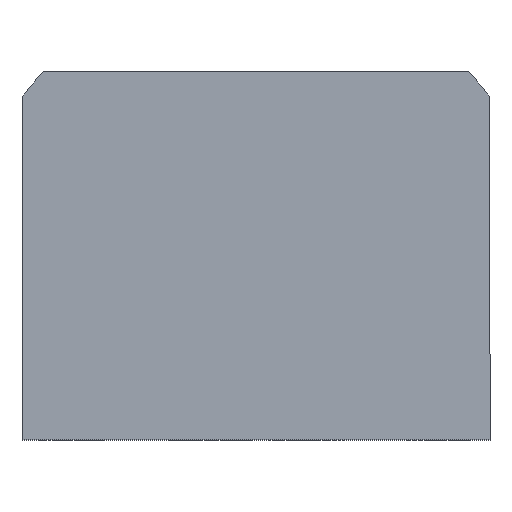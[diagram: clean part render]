
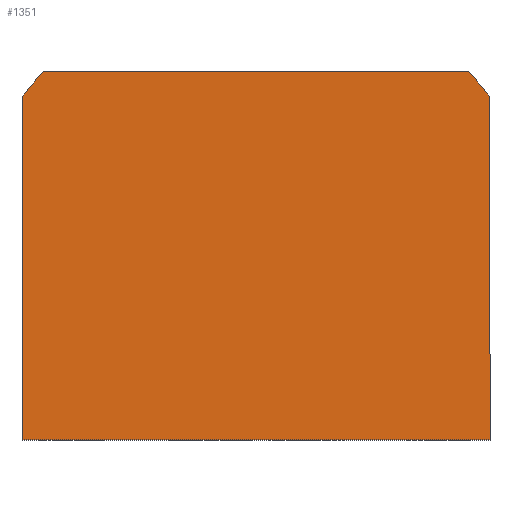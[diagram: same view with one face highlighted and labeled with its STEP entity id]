
A CAD part, top view. The second image highlights one B-rep face of the part: STEP entity #1351.
In plain terms, the highlighted planar face has unit normal (0, 0, 1).
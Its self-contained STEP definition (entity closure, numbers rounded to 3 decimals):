
#24 = DIRECTION ( 'NONE',  ( 0., 0., 1. ) ) ;
#295 = FACE_OUTER_BOUND ( 'NONE', #882, .T. ) ;
#347 = CARTESIAN_POINT ( 'NONE',  ( 47., 34.832, 32.5 ) ) ;
#648 = ORIENTED_EDGE ( 'NONE', *, *, #5767, .T. ) ;
#779 = CIRCLE ( 'NONE', #7269, 58.5 ) ;
#882 = EDGE_LOOP ( 'NONE', ( #4152, #10022, #8874, #648, #8433, #6510 ) ) ;
#1069 = EDGE_CURVE ( 'NONE', #2316, #7475, #6969, .T. ) ;
#1173 = CARTESIAN_POINT ( 'NONE',  ( 0., 0., 32.5 ) ) ;
#1185 = LINE ( 'NONE', #8592, #8664 ) ;
#1351 = ADVANCED_FACE ( 'NONE', ( #295 ), #5687, .T. ) ;
#1736 = LINE ( 'NONE', #8358, #10213 ) ;
#2036 = DIRECTION ( 'NONE',  ( 0., 0., 1. ) ) ;
#2141 = VERTEX_POINT ( 'NONE', #5349 ) ;
#2316 = VERTEX_POINT ( 'NONE', #2420 ) ;
#2420 = CARTESIAN_POINT ( 'NONE',  ( -42.688, 40., 32.5 ) ) ;
#2758 = VERTEX_POINT ( 'NONE', #9797 ) ;
#3047 = AXIS2_PLACEMENT_3D ( 'NONE', #1173, #2036, #7771 ) ;
#3121 = EDGE_CURVE ( 'NONE', #6554, #7810, #779, .T. ) ;
#3158 = DIRECTION ( 'NONE',  ( 0., 0., 1. ) ) ;
#3430 = CARTESIAN_POINT ( 'NONE',  ( 0., 0., 32.5 ) ) ;
#4152 = ORIENTED_EDGE ( 'NONE', *, *, #5908, .T. ) ;
#4952 = DIRECTION ( 'NONE',  ( 0., 1., 0. ) ) ;
#4975 = EDGE_CURVE ( 'NONE', #7475, #2141, #1736, .T. ) ;
#5349 = CARTESIAN_POINT ( 'NONE',  ( -47., -34., 32.5 ) ) ;
#5420 = EDGE_CURVE ( 'NONE', #2758, #6554, #8797, .T. ) ;
#5591 = VECTOR ( 'NONE', #6804, 1000. ) ;
#5687 = PLANE ( 'NONE',  #10637 ) ;
#5767 = EDGE_CURVE ( 'NONE', #7810, #2316, #7763, .T. ) ;
#5830 = DIRECTION ( 'NONE',  ( 1., 0., 0. ) ) ;
#5908 = EDGE_CURVE ( 'NONE', #2141, #2758, #1185, .T. ) ;
#6467 = DIRECTION ( 'NONE',  ( 1., 0., 0. ) ) ;
#6510 = ORIENTED_EDGE ( 'NONE', *, *, #4975, .T. ) ;
#6554 = VERTEX_POINT ( 'NONE', #347 ) ;
#6675 = CARTESIAN_POINT ( 'NONE',  ( 42.688, 40., 32.5 ) ) ;
#6723 = VECTOR ( 'NONE', #4952, 1000. ) ;
#6749 = DIRECTION ( 'NONE',  ( 0., -1., 0. ) ) ;
#6804 = DIRECTION ( 'NONE',  ( -1., 0., 0. ) ) ;
#6969 = CIRCLE ( 'NONE', #3047, 58.5 ) ;
#7252 = CARTESIAN_POINT ( 'NONE',  ( 0., 0., 32.5 ) ) ;
#7269 = AXIS2_PLACEMENT_3D ( 'NONE', #7252, #3158, #6467 ) ;
#7289 = CARTESIAN_POINT ( 'NONE',  ( 47., 34.832, 32.5 ) ) ;
#7475 = VERTEX_POINT ( 'NONE', #8200 ) ;
#7763 = LINE ( 'NONE', #10144, #5591 ) ;
#7771 = DIRECTION ( 'NONE',  ( 1., 0., 0. ) ) ;
#7810 = VERTEX_POINT ( 'NONE', #6675 ) ;
#8200 = CARTESIAN_POINT ( 'NONE',  ( -47., 34.832, 32.5 ) ) ;
#8358 = CARTESIAN_POINT ( 'NONE',  ( -47., -34., 32.5 ) ) ;
#8433 = ORIENTED_EDGE ( 'NONE', *, *, #1069, .T. ) ;
#8592 = CARTESIAN_POINT ( 'NONE',  ( 47., -34., 32.5 ) ) ;
#8664 = VECTOR ( 'NONE', #9376, 1000. ) ;
#8797 = LINE ( 'NONE', #7289, #6723 ) ;
#8874 = ORIENTED_EDGE ( 'NONE', *, *, #3121, .T. ) ;
#9376 = DIRECTION ( 'NONE',  ( 1., 0., 0. ) ) ;
#9797 = CARTESIAN_POINT ( 'NONE',  ( 47., -34., 32.5 ) ) ;
#10022 = ORIENTED_EDGE ( 'NONE', *, *, #5420, .T. ) ;
#10144 = CARTESIAN_POINT ( 'NONE',  ( -42.688, 40., 32.5 ) ) ;
#10213 = VECTOR ( 'NONE', #6749, 1000. ) ;
#10637 = AXIS2_PLACEMENT_3D ( 'NONE', #3430, #24, #5830 ) ;
